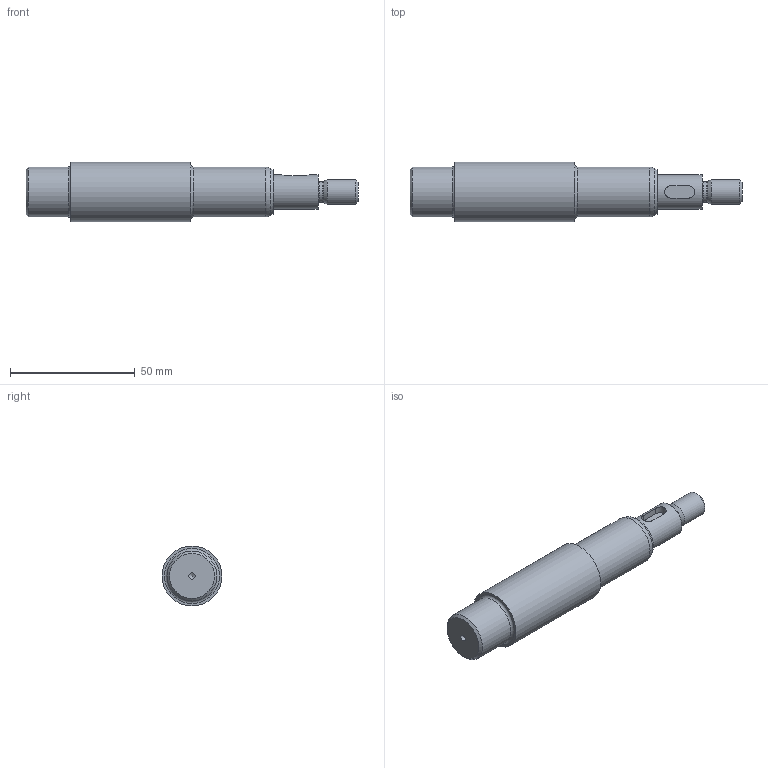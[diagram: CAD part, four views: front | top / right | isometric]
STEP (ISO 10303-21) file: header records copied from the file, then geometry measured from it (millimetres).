
FILE_DESCRIPTION(/* description */ (''),/* implementation_level */ '2;1');
FILE_NAME(/* name */ 'C:\Users\학생용.NET-PC\Desktop\391003E1017\391003E1017-축.stp',/* time_stamp */ '2019-10-26T11:17:34+09:00',/* author */ ('학생용'),/* organization */ (''),/* preprocessor_version */ 'ST-DEVELOPER v15.2',/* originating_system */ 'Autodesk Inventor 2014',/* authorisation */ '');
FILE_SCHEMA (('AUTOMOTIVE_DESIGN { 1 0 10303 214 3 1 1 }'));
Length unit declared in the file: millimetre
Products named in the file (1): 391003E1017-3D
Bounding box: 133 x 24 x 24 mm (x, y, z)
Volume: 41380.2 mm3; surface area: 9040.4 mm2
Topology: 1 solids, 1 shells, 28 faces, 54 edges, 33 vertices
Faces by surface type: cylinder 9, plane 9, cone 5, torus 5
Full cylindrical faces by diameter (mm): 2.459 x1, 8.169 x1, 10 x1, 14 x1, 20 x2, 24 x1
Entity records: 665 total; most frequent: CARTESIAN_POINT 133, DIRECTION 114, ORIENTED_EDGE 72, AXIS2_PLACEMENT_3D 53, EDGE_LOOP 50, EDGE_CURVE 36, VERTEX_POINT 32, ADVANCED_FACE 28
